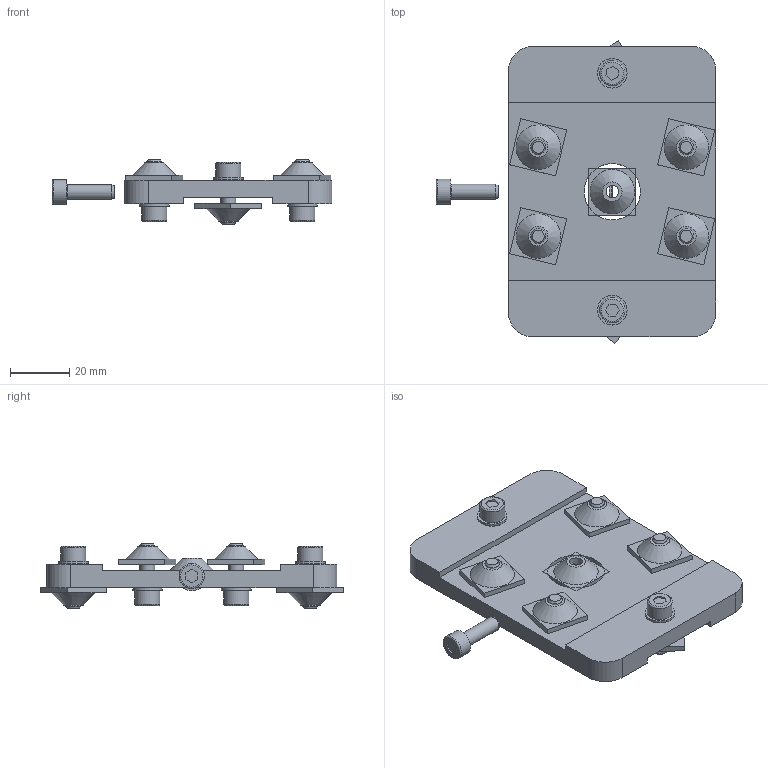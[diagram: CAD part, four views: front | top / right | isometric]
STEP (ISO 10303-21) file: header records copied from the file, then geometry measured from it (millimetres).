
FILE_DESCRIPTION( ( 'Unknown' ), '1' );
FILE_NAME( 'C:/Users/Fabrizio/Desktop/DISEGNI ACCESSORI FP SOLIDEDGE/CA.03.01.005.stp', 'Unknown', ( 'Unknown' ), ( 'Unknown' ), 'PSStep 13.0', 'Unknown', ' ' );
FILE_SCHEMA( ( 'AUTOMOTIVE_DESIGN { 1 0 10303 214 1 1 1 1 }' ) );
Length unit declared in the file: millimetre
Products named in the file (5): Assem1; 03-01-005; rondellaDIN 125 - A 5.3_1; ca.02.05.008; V-tcei M  5 x 16
Bounding box: 94.5 x 102.43 x 22 mm (x, y, z)
Volume: 83844.7 mm3; surface area: 42691.4 mm2
Topology: 23 solids, 23 shells, 253 faces, 544 edges, 358 vertices
Faces by surface type: plane 161, cylinder 57, cone 21, torus 14
Full cylindrical faces by diameter (mm): 4.2 x7, 5 x7, 5.2 x12, 5.3 x7, 8.5 x7, 10 x7, 19 x2
Entity records: 1954 total; most frequent: DIRECTION 294, CARTESIAN_POINT 264, ORIENTED_EDGE 216, AXIS2_PLACEMENT_3D 112, EDGE_CURVE 108, EDGE_LOOP 92, VERTEX_POINT 82, LINE 70
